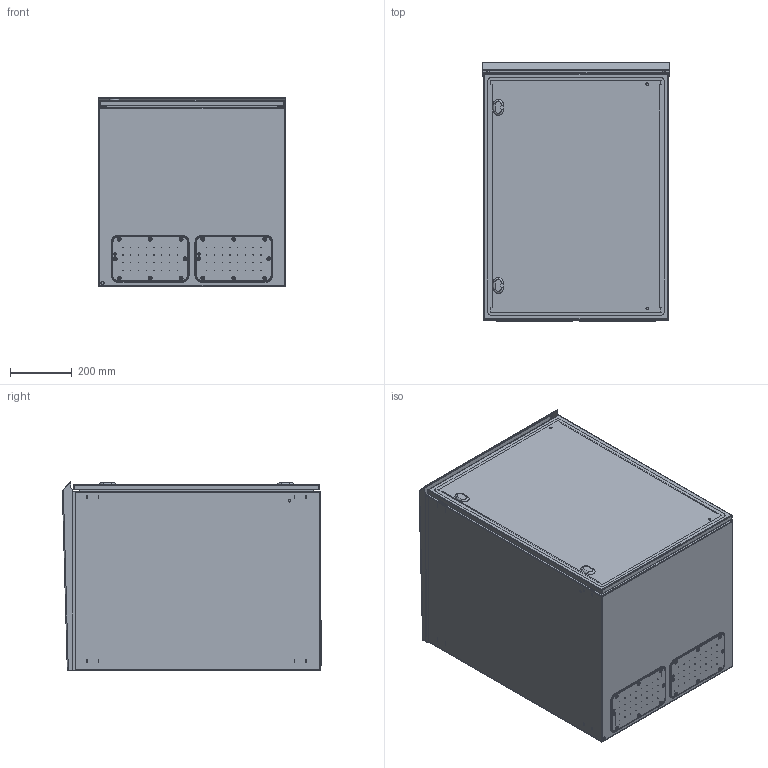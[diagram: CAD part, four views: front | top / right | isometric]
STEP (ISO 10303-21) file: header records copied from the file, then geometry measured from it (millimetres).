
FILE_DESCRIPTION (( 'STEP AP203' ), '1' );
FILE_NAME ('APRO06860BOC.STEP', '2022-01-05T14:19:02', ( '' ), ( '' ), 'SwSTEP 2.0', 'SolidWorks 2021', '' );
FILE_SCHEMA (( 'CONFIG_CONTROL_DESIGN' ));
Length unit declared in the file: millimetre
Products named in the file (9): AR_ECOR_flangia IC_03; AR_ECOR_montaggio_porta_singola_0600x0800; APRO06860BOC; AR_ECOR_porta_singola_0600x0800; AR_ECOR_chiusura_std_STD; 03008080701_06; AR_ECOR_Tettuccio_29; AR_BOX ABACUS PRO_involucro_0600x0800x0600; 03008060001_08
Assembly tree (14 placements, depth 3):
  APRO06860BOC
    AR_BOX ABACUS PRO_involucro_0600x0800x0600
    AR_ECOR_montaggio_porta_singola_0600x0800
      AR_ECOR_porta_singola_0600x0800
      AR_ECOR_chiusura_std_STD  x2
    AR_ECOR_flangia IC_03  x2
    03008060001_08  x4
    03008080701_06  x2
    AR_ECOR_Tettuccio_29
Bounding box: 607 x 837.32 x 611.42 mm (x, y, z)
Volume: 5256106.6 mm3; surface area: 7079758.5 mm2
Topology: 13 solids, 13 shells, 4869 faces, 13443 edges, 8334 vertices
Faces by surface type: plane 3026, cylinder 1569, cone 108, torus 78, bspline 72, sphere 16
Entity records: 70743 total; most frequent: CARTESIAN_POINT 13398, ORIENTED_EDGE 11728, DIRECTION 11667, EDGE_CURVE 5864, VECTOR 4079, LINE 4079, AXIS2_PLACEMENT_3D 3794, VERTEX_POINT 3706
